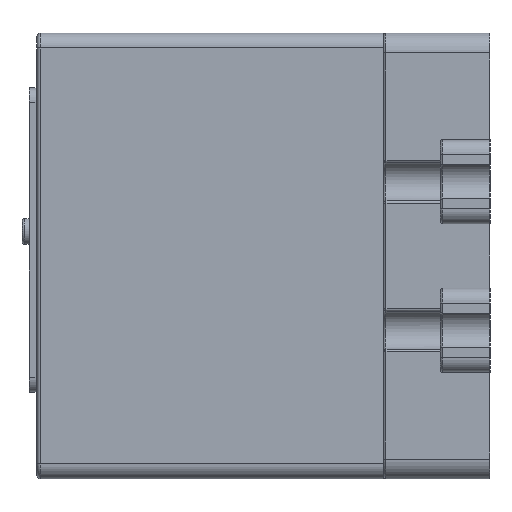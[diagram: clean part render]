
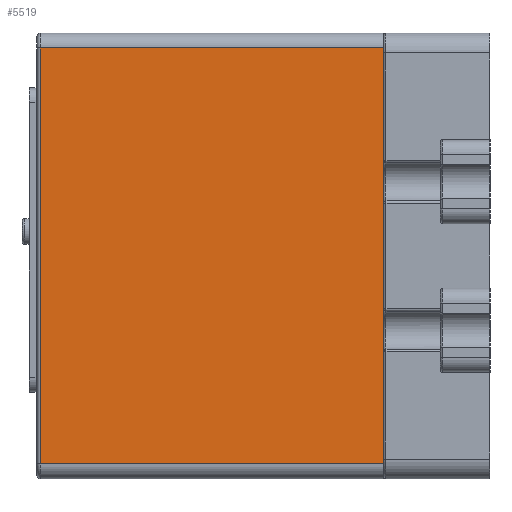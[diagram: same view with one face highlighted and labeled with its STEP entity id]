
A CAD part, left-side view. The second image highlights one B-rep face of the part: STEP entity #5519.
In plain terms, the highlighted planar face has unit normal (-1, 0, 0).
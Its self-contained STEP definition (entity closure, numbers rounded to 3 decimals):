
#3514=PLANE('',#43796);
#5519=ADVANCED_FACE('',(#7918),#3514,.F.);
#7918=FACE_OUTER_BOUND('',#10174,.T.);
#10174=EDGE_LOOP('',(#29079,#29080,#29081,#29082));
#14549=LINE('',#72463,#19125);
#14550=LINE('',#72466,#19126);
#14551=LINE('',#72468,#19127);
#14552=LINE('',#72470,#19128);
#19125=VECTOR('',#53068,1.);
#19126=VECTOR('',#53069,1.);
#19127=VECTOR('',#53070,1.);
#19128=VECTOR('',#53071,1.);
#29079=ORIENTED_EDGE('',*,*,#39877,.T.);
#29080=ORIENTED_EDGE('',*,*,#39878,.T.);
#29081=ORIENTED_EDGE('',*,*,#39879,.T.);
#29082=ORIENTED_EDGE('',*,*,#39880,.T.);
#34536=VERTEX_POINT('',#72464);
#34537=VERTEX_POINT('',#72465);
#34538=VERTEX_POINT('',#72467);
#34539=VERTEX_POINT('',#72469);
#39877=EDGE_CURVE('',#34536,#34537,#14549,.T.);
#39878=EDGE_CURVE('',#34537,#34538,#14550,.T.);
#39879=EDGE_CURVE('',#34538,#34539,#14551,.T.);
#39880=EDGE_CURVE('',#34539,#34536,#14552,.T.);
#43796=AXIS2_PLACEMENT_3D('',#72471,#53072,#53073);
#53068=DIRECTION('',(0.,1.,0.));
#53069=DIRECTION('',(0.,0.,-1.));
#53070=DIRECTION('',(0.,-1.,0.));
#53071=DIRECTION('',(0.,0.,1.));
#53072=DIRECTION('',(1.,0.,0.));
#53073=DIRECTION('',(0.,0.,-1.));
#72463=CARTESIAN_POINT('',(-44.5,70.,42.));
#72464=CARTESIAN_POINT('',(-44.5,0.,42.));
#72465=CARTESIAN_POINT('',(-44.5,69.3,42.));
#72466=CARTESIAN_POINT('',(-44.5,69.3,-42.));
#72467=CARTESIAN_POINT('',(-44.5,69.3,-42.));
#72468=CARTESIAN_POINT('',(-44.5,70.,-42.));
#72469=CARTESIAN_POINT('',(-44.5,0.,-42.));
#72470=CARTESIAN_POINT('',(-44.5,0.,-45.));
#72471=CARTESIAN_POINT('',(-44.5,70.,-45.));
